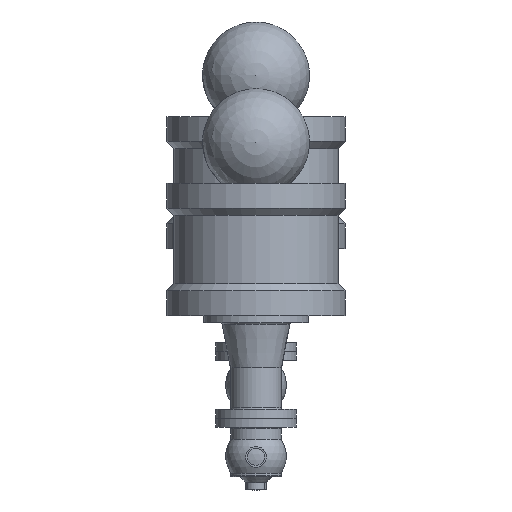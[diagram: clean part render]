
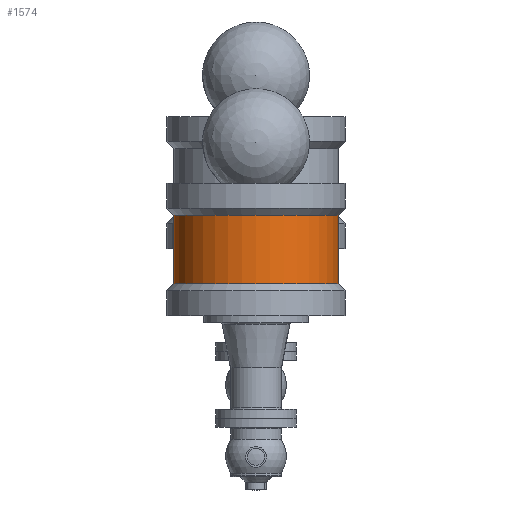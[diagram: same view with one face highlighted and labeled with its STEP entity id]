
A CAD part, front view. The second image highlights one B-rep face of the part: STEP entity #1574.
In plain terms, the highlighted cylindrical face has radius 110.5 mm (diameter 221 mm), a full revolution.
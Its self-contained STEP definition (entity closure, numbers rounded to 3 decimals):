
#283=FACE_OUTER_BOUND('',#387,.T.);
#387=EDGE_LOOP('',(#1320,#1321,#1322,#1323,#1324,#1325));
#526=CIRCLE('',#1908,110.5);
#527=CIRCLE('',#1909,110.5);
#528=CIRCLE('',#1911,110.5);
#529=CIRCLE('',#1912,110.5);
#618=LINE('',#3155,#658);
#658=VECTOR('',#2377,110.5);
#784=VERTEX_POINT('',#3145);
#785=VERTEX_POINT('',#3146);
#786=VERTEX_POINT('',#3151);
#787=VERTEX_POINT('',#3152);
#975=EDGE_CURVE('',#784,#785,#526,.T.);
#976=EDGE_CURVE('',#785,#784,#527,.T.);
#978=EDGE_CURVE('',#786,#787,#528,.T.);
#979=EDGE_CURVE('',#787,#786,#529,.T.);
#980=EDGE_CURVE('',#787,#785,#618,.T.);
#1320=ORIENTED_EDGE('',*,*,#978,.F.);
#1321=ORIENTED_EDGE('',*,*,#979,.F.);
#1322=ORIENTED_EDGE('',*,*,#980,.T.);
#1323=ORIENTED_EDGE('',*,*,#976,.T.);
#1324=ORIENTED_EDGE('',*,*,#975,.T.);
#1325=ORIENTED_EDGE('',*,*,#980,.F.);
#1506=CYLINDRICAL_SURFACE('',#1910,110.5);
#1574=ADVANCED_FACE('',(#283),#1506,.T.);
#1908=AXIS2_PLACEMENT_3D('',#3147,#2366,#2367);
#1909=AXIS2_PLACEMENT_3D('',#3148,#2368,#2369);
#1910=AXIS2_PLACEMENT_3D('',#3150,#2371,#2372);
#1911=AXIS2_PLACEMENT_3D('',#3153,#2373,#2374);
#1912=AXIS2_PLACEMENT_3D('',#3154,#2375,#2376);
#2366=DIRECTION('center_axis',(-1.,0.,0.));
#2367=DIRECTION('ref_axis',(0.,0.,1.));
#2368=DIRECTION('center_axis',(-1.,0.,0.));
#2369=DIRECTION('ref_axis',(0.,0.,1.));
#2371=DIRECTION('center_axis',(-1.,0.,0.));
#2372=DIRECTION('ref_axis',(0.,0.,1.));
#2373=DIRECTION('center_axis',(-1.,0.,0.));
#2374=DIRECTION('ref_axis',(0.,0.,1.));
#2375=DIRECTION('center_axis',(-1.,0.,0.));
#2376=DIRECTION('ref_axis',(0.,0.,1.));
#2377=DIRECTION('',(1.,0.,0.));
#3145=CARTESIAN_POINT('',(-46.,0.,110.5));
#3146=CARTESIAN_POINT('',(-46.,0.,-110.5));
#3147=CARTESIAN_POINT('Origin',(-46.,0.,0.));
#3148=CARTESIAN_POINT('Origin',(-46.,0.,0.));
#3150=CARTESIAN_POINT('Origin',(-92.,0.,0.));
#3151=CARTESIAN_POINT('',(-138.,0.,110.5));
#3152=CARTESIAN_POINT('',(-138.,0.,-110.5));
#3153=CARTESIAN_POINT('Origin',(-138.,0.,0.));
#3154=CARTESIAN_POINT('Origin',(-138.,0.,0.));
#3155=CARTESIAN_POINT('',(-92.,0.,-110.5));
